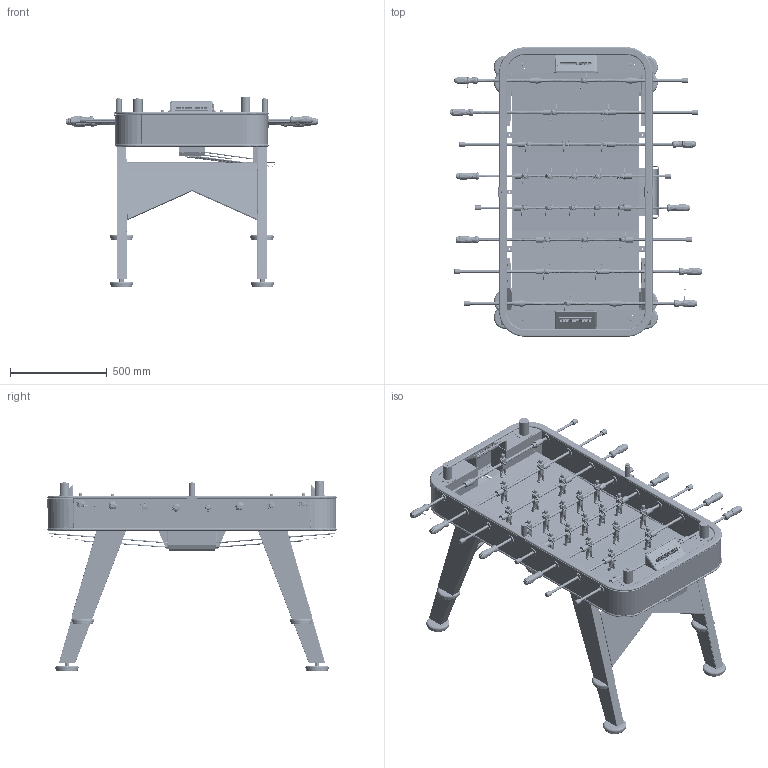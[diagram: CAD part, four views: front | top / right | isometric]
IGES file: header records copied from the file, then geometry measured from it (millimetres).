
Start section: START RECORD GO HERE.
Global section: file name: RS#2_3D.igs; native system: IBM CATIA IGES - CATIA Version 5 Release 14 ; preprocessor: CATIA Version 5 Release 14 ; author: Administrador; organization: IMACAAC2; date: 20140221.130850; units: millimetre
Bounding box: 1304.73 x 1499.99 x 987.38 mm (x, y, z)
Surface area: 15512840.8 mm2 (no closed solid volume)
Topology: 0 solids, 0 shells, 10719 faces, 51238 edges, 51078 vertices
Faces by surface type: revolution 5475, plane 4696, bspline 516, extrusion 32
